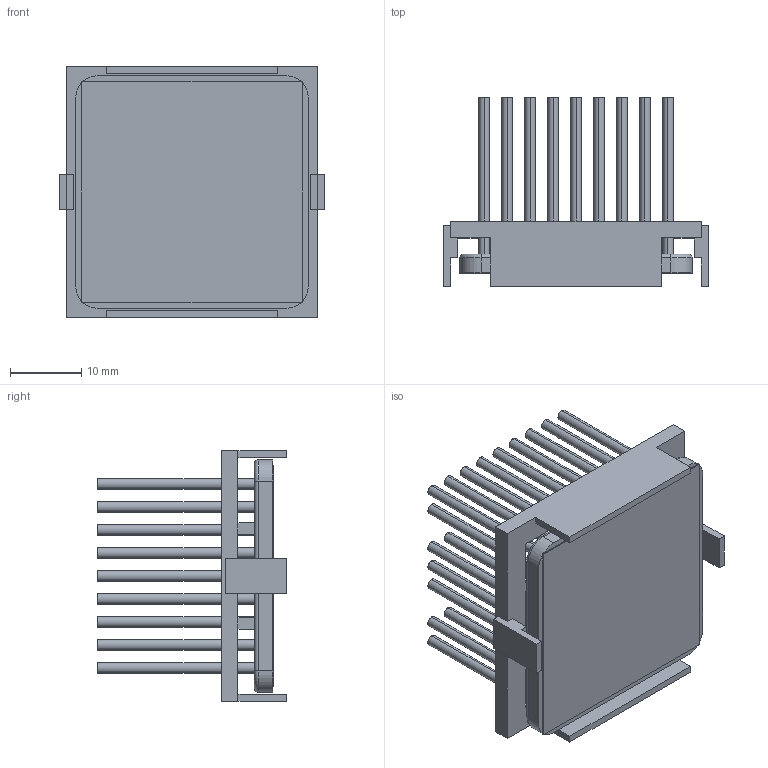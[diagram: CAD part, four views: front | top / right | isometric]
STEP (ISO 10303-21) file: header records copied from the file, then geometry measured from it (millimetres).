
FILE_DESCRIPTION (( 'STEP AP214' ), '1' );
FILE_NAME ('INM33002-25P-2.6BU.STEP', '2023-02-20T20:02:12', ( '' ), ( '' ), 'SwSTEP 2.0', 'SolidWorks 2020', '' );
FILE_SCHEMA (( 'AUTOMOTIVE_DESIGN' ));
Length unit declared in the file: inch
Products named in the file (1): INM33002-25P-2.6BU
Bounding box: 37.2 x 26.5 x 35.2 mm (x, y, z)
Volume: 7295.1 mm3; surface area: 14533.3 mm2
Topology: 3 solids, 3 shells, 301 faces, 658 edges, 436 vertices
Faces by surface type: cylinder 154, plane 143, torus 4
Entity records: 12339 total; most frequent: DIRECTION 1574, CARTESIAN_POINT 1396, ORIENTED_EDGE 1316, EDGE_CURVE 658, AXIS2_PLACEMENT_3D 614, VERTEX_POINT 436, EDGE_LOOP 376, LINE 346
